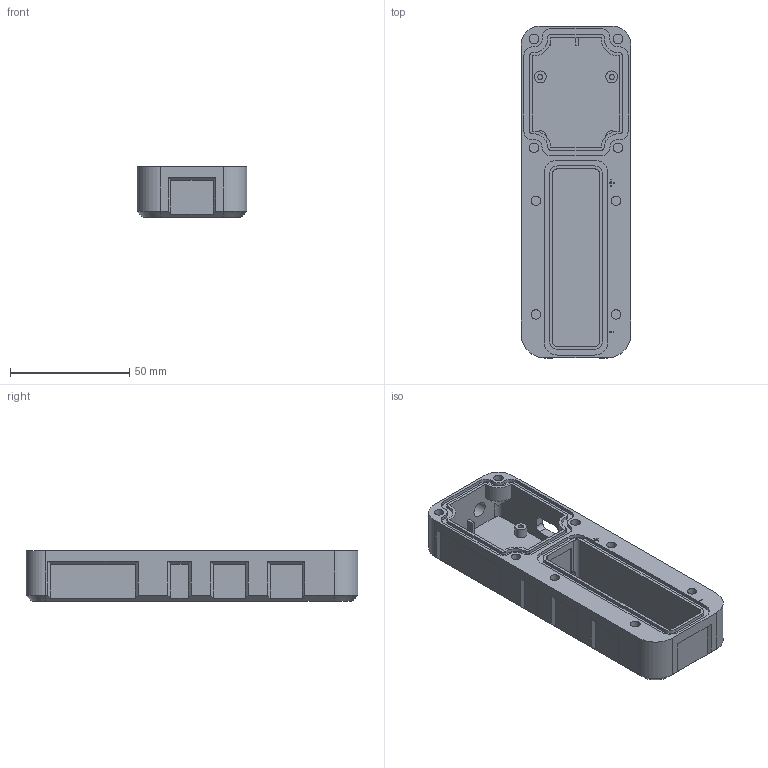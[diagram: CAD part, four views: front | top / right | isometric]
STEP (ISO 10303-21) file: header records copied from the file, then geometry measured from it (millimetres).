
FILE_DESCRIPTION(('Open CASCADE Model'),'2;1');
FILE_NAME('Open CASCADE Shape Model','2026-10-09T15:33:12',('Author'),( 'Open CASCADE'),'Open CASCADE STEP processor 7.9','Open CASCADE 7.9' ,'Unknown');
FILE_SCHEMA(('AUTOMOTIVE_DESIGN { 1 0 10303 214 1 1 1 1 }'));
Length unit declared in the file: millimetre
Products named in the file (1): Open CASCADE STEP translator 7.9 1
Bounding box: 46 x 139 x 21.2 mm (x, y, z)
Volume: 67485.4 mm3; surface area: 29517.7 mm2
Topology: 1 solids, 1 shells, 223 faces, 571 edges, 378 vertices
Faces by surface type: plane 138, cylinder 77, cone 8
Full cylindrical faces by diameter (mm): 2.1 x4, 3.2 x2, 4 x14, 5 x4, 6.6 x1
Entity records: 15700 total; most frequent: CARTESIAN_POINT 4622, DIRECTION 1966, ORIENTED_EDGE 1142, PCURVE 1142, DEFINITIONAL_REPRESENTATION 1142, LINE 1125, VECTOR 1125, EDGE_CURVE 571
